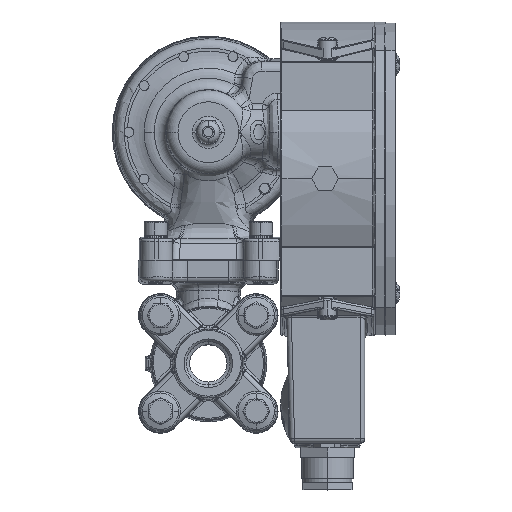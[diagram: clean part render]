
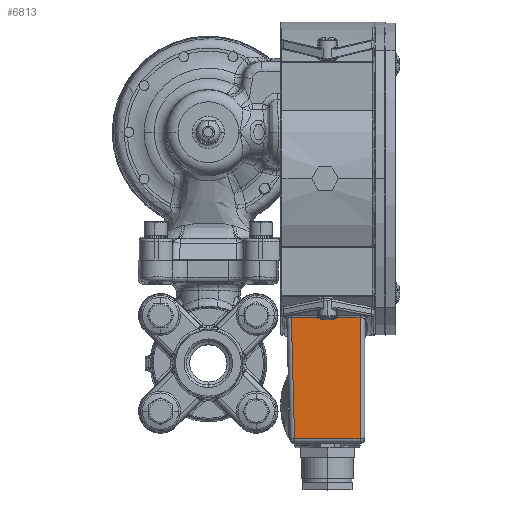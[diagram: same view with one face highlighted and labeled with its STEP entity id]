
A CAD part, top view. The second image highlights one B-rep face of the part: STEP entity #6813.
In plain terms, the highlighted planar face has unit normal (0, -0.026, 1).
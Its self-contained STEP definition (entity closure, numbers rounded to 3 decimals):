
#263 = VERTEX_POINT ( 'NONE', #119288 ) ;
#3246 = VECTOR ( 'NONE', #53420, 1000. ) ;
#3793 = VERTEX_POINT ( 'NONE', #141580 ) ;
#6813 = ADVANCED_FACE ( 'NONE', ( #131536 ), #100440, .T. ) ;
#7153 = EDGE_CURVE ( 'NONE', #3793, #263, #148155, .T. ) ;
#12682 = B_SPLINE_CURVE_WITH_KNOTS ( 'NONE', 3,
 ( #65425, #136303, #89182, #18590, #101100, #30491 ),
 .UNSPECIFIED., .F., .F.,
 ( 4, 2, 4 ),
 ( 0., 0.5, 1. ),
 .UNSPECIFIED. ) ;
#13226 = DIRECTION ( 'NONE',  ( 0., -0.026, 1. ) ) ;
#14096 = DIRECTION ( 'NONE',  ( -1., 0., 0. ) ) ;
#18590 = CARTESIAN_POINT ( 'NONE',  ( 46.69, -50.329, 76.184 ) ) ;
#18963 = ORIENTED_EDGE ( 'NONE', *, *, #34539, .T. ) ;
#19063 = EDGE_CURVE ( 'NONE', #38840, #129877, #149337, .T. ) ;
#21338 = DIRECTION ( 'NONE',  ( -1., 0., 0. ) ) ;
#21890 = CARTESIAN_POINT ( 'NONE',  ( 17.405, -50.001, 76.193 ) ) ;
#28872 = EDGE_LOOP ( 'NONE', ( #65941, #80870, #99583, #110853, #86540, #18963, #131850, #59675 ) ) ;
#29832 = DIRECTION ( 'NONE',  ( 0., -1., -0.026 ) ) ;
#30491 = CARTESIAN_POINT ( 'NONE',  ( 46.373, -50.001, 76.193 ) ) ;
#31552 = EDGE_CURVE ( 'NONE', #58346, #37577, #112775, .T. ) ;
#32376 = CARTESIAN_POINT ( 'NONE',  ( 64.81, -103.846, 74.783 ) ) ;
#34001 = CARTESIAN_POINT ( 'NONE',  ( 35.4, -50.001, 76.193 ) ) ;
#34539 = EDGE_CURVE ( 'NONE', #58346, #38840, #80891, .T. ) ;
#37577 = VERTEX_POINT ( 'NONE', #137762 ) ;
#38527 = DIRECTION ( 'NONE',  ( 0.026, -0.999, -0.026 ) ) ;
#38840 = VERTEX_POINT ( 'NONE', #73939 ) ;
#40756 = CARTESIAN_POINT ( 'NONE',  ( 54.93, -50.329, 76.184 ) ) ;
#44167 = DIRECTION ( 'NONE',  ( 0., 1., 0.026 ) ) ;
#44996 = AXIS2_PLACEMENT_3D ( 'NONE', #83897, #13226, #29832 ) ;
#47527 = VECTOR ( 'NONE', #104376, 1000. ) ;
#47539 = EDGE_CURVE ( 'NONE', #263, #107488, #12682, .T. ) ;
#50451 = EDGE_CURVE ( 'NONE', #129877, #3793, #60705, .T. ) ;
#52584 = CARTESIAN_POINT ( 'NONE',  ( 54.293, -50.585, 76.178 ) ) ;
#52663 = LINE ( 'NONE', #75380, #84068 ) ;
#52749 = EDGE_CURVE ( 'NONE', #107488, #130749, #93883, .T. ) ;
#53420 = DIRECTION ( 'NONE',  ( -1., 0., 0. ) ) ;
#58346 = VERTEX_POINT ( 'NONE', #75150 ) ;
#59675 = ORIENTED_EDGE ( 'NONE', *, *, #50451, .T. ) ;
#60705 = B_SPLINE_CURVE_WITH_KNOTS ( 'NONE', 3,
 ( #99567, #111473, #40756, #123433, #52584, #135286 ),
 .UNSPECIFIED., .F., .F.,
 ( 4, 2, 4 ),
 ( 0., 0.5, 1. ),
 .UNSPECIFIED. ) ;
#65425 = CARTESIAN_POINT ( 'NONE',  ( 47.56, -50.585, 76.178 ) ) ;
#65941 = ORIENTED_EDGE ( 'NONE', *, *, #7153, .T. ) ;
#73939 = CARTESIAN_POINT ( 'NONE',  ( 64.81, -50.001, 76.193 ) ) ;
#75150 = CARTESIAN_POINT ( 'NONE',  ( 64.81, -101.898, 74.834 ) ) ;
#75380 = CARTESIAN_POINT ( 'NONE',  ( 35.4, -50.001, 76.193 ) ) ;
#80870 = ORIENTED_EDGE ( 'NONE', *, *, #47539, .T. ) ;
#80891 = LINE ( 'NONE', #32376, #112383 ) ;
#81276 = VECTOR ( 'NONE', #14096, 1000. ) ;
#83897 = CARTESIAN_POINT ( 'NONE',  ( 17.405, -103.846, 74.783 ) ) ;
#84068 = VECTOR ( 'NONE', #38527, 1000. ) ;
#85142 = VECTOR ( 'NONE', #21338, 1000. ) ;
#86540 = ORIENTED_EDGE ( 'NONE', *, *, #31552, .F. ) ;
#89182 = CARTESIAN_POINT ( 'NONE',  ( 47.107, -50.533, 76.179 ) ) ;
#93883 = LINE ( 'NONE', #135124, #3246 ) ;
#94865 = CARTESIAN_POINT ( 'NONE',  ( 55.248, -50.001, 76.193 ) ) ;
#96637 = CARTESIAN_POINT ( 'NONE',  ( 26.108, -101.898, 74.834 ) ) ;
#99567 = CARTESIAN_POINT ( 'NONE',  ( 55.248, -50.001, 76.193 ) ) ;
#99583 = ORIENTED_EDGE ( 'NONE', *, *, #52749, .T. ) ;
#100440 = PLANE ( 'NONE',  #44996 ) ;
#101100 = CARTESIAN_POINT ( 'NONE',  ( 46.515, -50.186, 76.188 ) ) ;
#104376 = DIRECTION ( 'NONE',  ( -1., 0., 0. ) ) ;
#107488 = VERTEX_POINT ( 'NONE', #141516 ) ;
#110853 = ORIENTED_EDGE ( 'NONE', *, *, #134283, .T. ) ;
#111473 = CARTESIAN_POINT ( 'NONE',  ( 55.106, -50.185, 76.188 ) ) ;
#112383 = VECTOR ( 'NONE', #44167, 1000. ) ;
#112775 = LINE ( 'NONE', #96637, #81276 ) ;
#119288 = CARTESIAN_POINT ( 'NONE',  ( 47.56, -50.585, 76.178 ) ) ;
#123433 = CARTESIAN_POINT ( 'NONE',  ( 54.513, -50.534, 76.179 ) ) ;
#129877 = VERTEX_POINT ( 'NONE', #94865 ) ;
#130749 = VERTEX_POINT ( 'NONE', #34001 ) ;
#131536 = FACE_OUTER_BOUND ( 'NONE', #28872, .T. ) ;
#131850 = ORIENTED_EDGE ( 'NONE', *, *, #19063, .T. ) ;
#134283 = EDGE_CURVE ( 'NONE', #130749, #37577, #52663, .T. ) ;
#135124 = CARTESIAN_POINT ( 'NONE',  ( 17.405, -50.001, 76.193 ) ) ;
#135286 = CARTESIAN_POINT ( 'NONE',  ( 54.06, -50.585, 76.178 ) ) ;
#136303 = CARTESIAN_POINT ( 'NONE',  ( 47.328, -50.585, 76.178 ) ) ;
#137762 = CARTESIAN_POINT ( 'NONE',  ( 36.759, -101.898, 74.834 ) ) ;
#141516 = CARTESIAN_POINT ( 'NONE',  ( 46.373, -50.001, 76.193 ) ) ;
#141580 = CARTESIAN_POINT ( 'NONE',  ( 54.06, -50.585, 76.178 ) ) ;
#148155 = LINE ( 'NONE', #150981, #85142 ) ;
#149337 = LINE ( 'NONE', #21890, #47527 ) ;
#150981 = CARTESIAN_POINT ( 'NONE',  ( 34.108, -50.585, 76.178 ) ) ;
